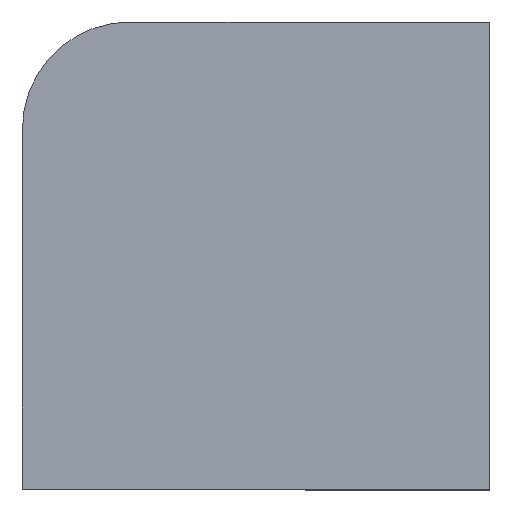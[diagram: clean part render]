
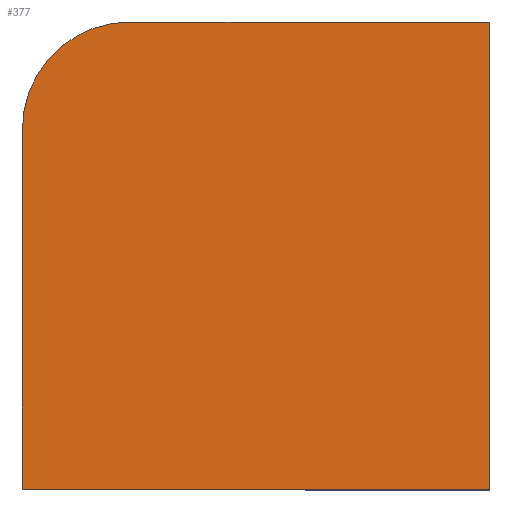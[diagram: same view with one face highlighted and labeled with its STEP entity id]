
A CAD part, top view. The second image highlights one B-rep face of the part: STEP entity #377.
In plain terms, the highlighted planar face has unit normal (0, 0, 1).
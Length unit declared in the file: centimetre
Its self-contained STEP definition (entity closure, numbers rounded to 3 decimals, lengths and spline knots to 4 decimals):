
#1 = CARTESIAN_POINT ( 'NONE',  ( 1000., 1000., 1000. ) ) ;
#3 = CARTESIAN_POINT ( 'NONE',  ( 0., 770.1713, 1000. ) ) ;
#9 = LINE ( 'NONE', #327, #614 ) ;
#21 = ORIENTED_EDGE ( 'NONE', *, *, #338, .T. ) ;
#23 = AXIS2_PLACEMENT_3D ( 'NONE', #26, #244, #601 ) ;
#26 = CARTESIAN_POINT ( 'NONE',  ( 229.8287, 770.1713, 1000. ) ) ;
#33 = VECTOR ( 'NONE', #506, 100. ) ;
#34 = CARTESIAN_POINT ( 'NONE',  ( 229.8287, 1000., 1000. ) ) ;
#43 = CIRCLE ( 'NONE', #23, 229.8287 ) ;
#83 = VERTEX_POINT ( 'NONE', #3 ) ;
#98 = EDGE_CURVE ( 'NONE', #487, #664, #166, .T. ) ;
#125 = VECTOR ( 'NONE', #128, 100. ) ;
#128 = DIRECTION ( 'NONE',  ( 1., 0., 0. ) ) ;
#133 = VERTEX_POINT ( 'NONE', #1 ) ;
#166 = LINE ( 'NONE', #220, #125 ) ;
#171 = CARTESIAN_POINT ( 'NONE',  ( 0., 0., 1000. ) ) ;
#178 = PLANE ( 'NONE',  #256 ) ;
#202 = VERTEX_POINT ( 'NONE', #34 ) ;
#220 = CARTESIAN_POINT ( 'NONE',  ( 0., 0., 1000. ) ) ;
#228 = EDGE_CURVE ( 'NONE', #664, #133, #406, .T. ) ;
#244 = DIRECTION ( 'NONE',  ( 0., 0., 1. ) ) ;
#256 = AXIS2_PLACEMENT_3D ( 'NONE', #171, #363, #324 ) ;
#264 = DIRECTION ( 'NONE',  ( -1., 0., 0. ) ) ;
#273 = ORIENTED_EDGE ( 'NONE', *, *, #498, .T. ) ;
#280 = ORIENTED_EDGE ( 'NONE', *, *, #98, .T. ) ;
#285 = ORIENTED_EDGE ( 'NONE', *, *, #228, .T. ) ;
#291 = CARTESIAN_POINT ( 'NONE',  ( 0., 0., 1000. ) ) ;
#324 = DIRECTION ( 'NONE',  ( 1., 0., 0. ) ) ;
#327 = CARTESIAN_POINT ( 'NONE',  ( 0., 1000., 1000. ) ) ;
#338 = EDGE_CURVE ( 'NONE', #133, #202, #509, .T. ) ;
#363 = DIRECTION ( 'NONE',  ( 0., 0., 1. ) ) ;
#377 = ADVANCED_FACE ( 'NONE', ( #474 ), #178, .T. ) ;
#406 = LINE ( 'NONE', #504, #33 ) ;
#407 = CARTESIAN_POINT ( 'NONE',  ( 1000., 0., 1000. ) ) ;
#412 = EDGE_CURVE ( 'NONE', #83, #487, #9, .T. ) ;
#457 = EDGE_LOOP ( 'NONE', ( #21, #273, #596, #280, #285 ) ) ;
#474 = FACE_OUTER_BOUND ( 'NONE', #457, .T. ) ;
#487 = VERTEX_POINT ( 'NONE', #291 ) ;
#498 = EDGE_CURVE ( 'NONE', #202, #83, #43, .T. ) ;
#504 = CARTESIAN_POINT ( 'NONE',  ( 1000., 1000., 1000. ) ) ;
#506 = DIRECTION ( 'NONE',  ( 0., 1., 0. ) ) ;
#509 = LINE ( 'NONE', #667, #548 ) ;
#524 = DIRECTION ( 'NONE',  ( 0., -1., 0. ) ) ;
#548 = VECTOR ( 'NONE', #264, 100. ) ;
#596 = ORIENTED_EDGE ( 'NONE', *, *, #412, .T. ) ;
#601 = DIRECTION ( 'NONE',  ( 1., 0., 0. ) ) ;
#614 = VECTOR ( 'NONE', #524, 100. ) ;
#664 = VERTEX_POINT ( 'NONE', #407 ) ;
#667 = CARTESIAN_POINT ( 'NONE',  ( 0., 1000., 1000. ) ) ;
